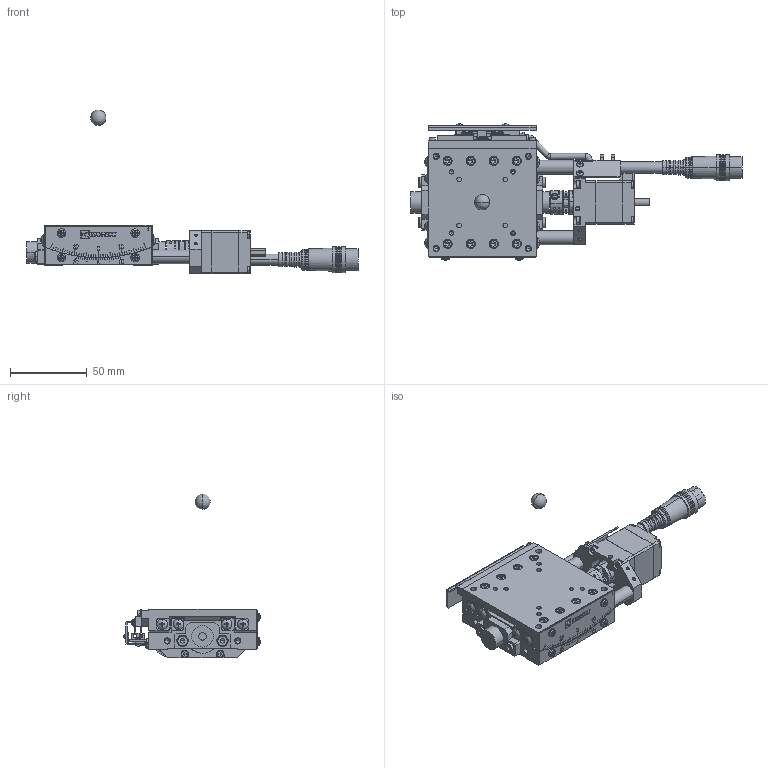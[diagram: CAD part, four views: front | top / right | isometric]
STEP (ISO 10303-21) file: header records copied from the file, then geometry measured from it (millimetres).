
FILE_DESCRIPTION( (''), '2;1');
FILE_NAME ('SA07A-R2T01.stp','2022-01-24T14:35:43',(''),(''),'spGate 17.5.5','','');
FILE_SCHEMA (('AUTOMOTIVE_DESIGN'));
Length unit declared in the file: millimetre
Products named in the file (6): Assembly; SA07A-R2T01-prt0; SA07A-R2T01-prt1; SA07A-R2T01-prt2; SA07A-R2T01-prt3; SA07A-R2T01-prt4
Assembly tree (5 placements, depth 2):
  Assembly
    SA07A-R2T01-prt0
    SA07A-R2T01-prt1
    SA07A-R2T01-prt2
    SA07A-R2T01-prt3
    SA07A-R2T01-prt4
Bounding box: 216 x 88.66 x 106.5 mm (x, y, z)
Volume: 183569.3 mm3; surface area: 63632.1 mm2
Topology: 5 solids, 5 shells, 2939 faces, 7506 edges, 4719 vertices
Faces by surface type: plane 1826, cylinder 701, bspline 364, sphere 48
Entity records: 150553 total; most frequent: CARTESIAN_POINT 21504, ORIENTED_EDGE 14832, DIRECTION 13941, COLOUR_RGB 10360, PRESENTATION_STYLE_ASSIGNMENT 10360, STYLED_ITEM 10360, EDGE_CURVE 7416, DRAUGHTING_PRE_DEFINED_CURVE_FONT 7416
